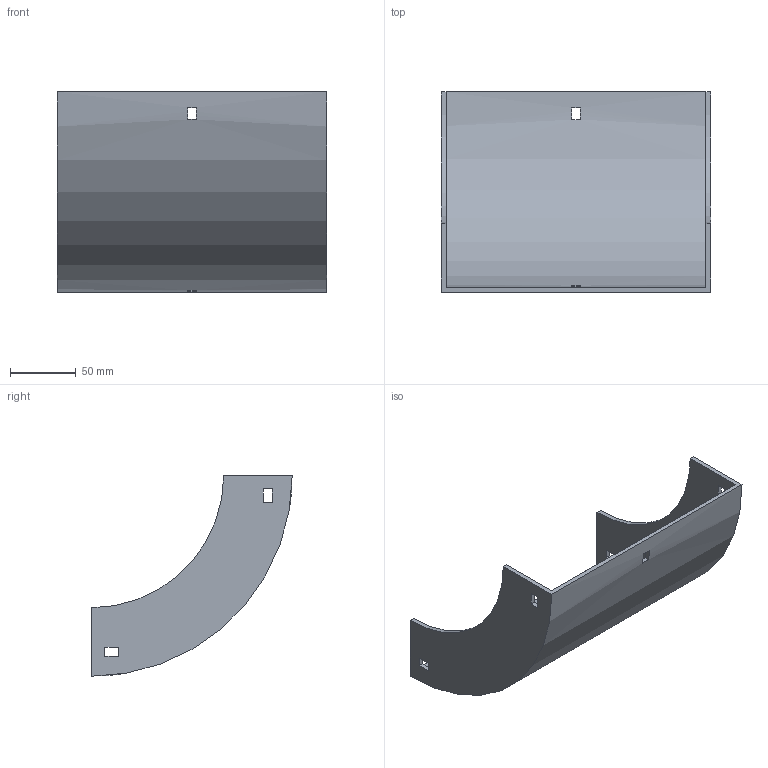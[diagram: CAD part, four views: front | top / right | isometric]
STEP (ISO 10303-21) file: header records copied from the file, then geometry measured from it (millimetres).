
FILE_DESCRIPTION (( 'STEP AP214' ), '1' );
FILE_NAME ('30B1B200.step', '2025-02-21T09:49:35', ( '' ), ( '' ), 'SwSTEP 2.0', 'SolidWorks 2023', '' );
FILE_SCHEMA (( 'AUTOMOTIVE_DESIGN' ));
Length unit declared in the file: millimetre
Products named in the file (1): 30B1B200
Bounding box: 204 x 152 x 152 mm (x, y, z)
Volume: 233381.3 mm3; surface area: 137280.9 mm2
Topology: 1 solids, 1 shells, 34 faces, 96 edges, 64 vertices
Faces by surface type: plane 30, cylinder 4
Entity records: 1143 total; most frequent: CARTESIAN_POINT 195, ORIENTED_EDGE 192, DIRECTION 182, EDGE_CURVE 96, LINE 80, VECTOR 80, VERTEX_POINT 64, AXIS2_PLACEMENT_3D 51
